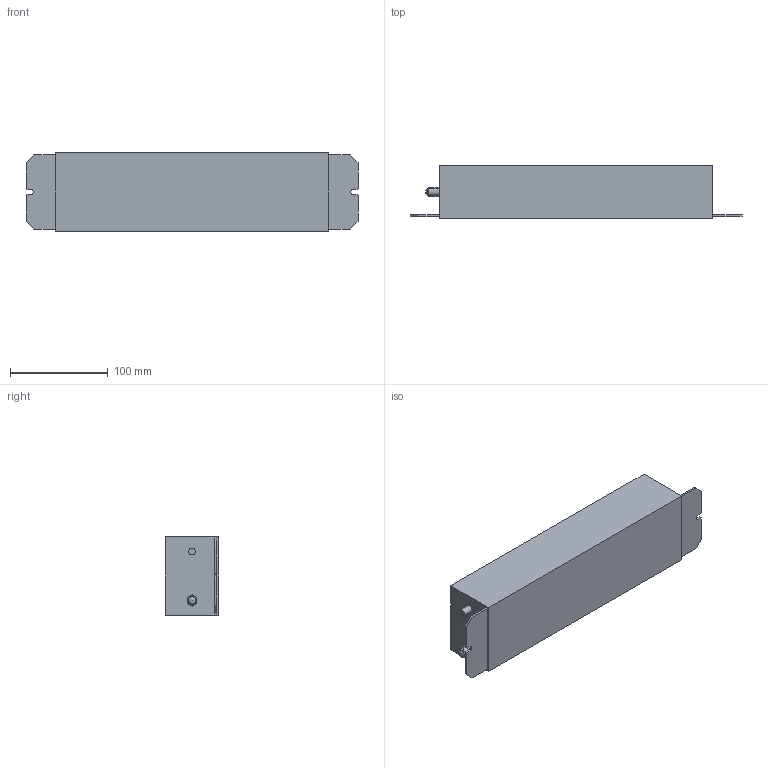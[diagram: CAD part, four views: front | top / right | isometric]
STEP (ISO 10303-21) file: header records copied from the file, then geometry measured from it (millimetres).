
FILE_DESCRIPTION(/* description */ (''),/* implementation_level */ '2;1');
FILE_NAME(/* name */ 'E:\Работа\Веда МК (Данфосс)\!Текущие задачи\2024.08.30 3D модели дросселей\Тормозные резисторы\STP\E54-3.stp',/* time_stamp */ '2024-09-04T07:28:25+04:00',/* author */ ('Александр (огранич)'),/* organization */ (''),/* preprocessor_version */ 'ST-DEVELOPER v18.1',/* originating_system */ 'Autodesk Inventor 2021',/* authorisation */ '');
FILE_SCHEMA (('AUTOMOTIVE_DESIGN { 1 0 10303 214 3 1 1 }'));
Length unit declared in the file: millimetre
Products named in the file (1): E54-1
Bounding box: 340 x 55 x 80 mm (x, y, z)
Volume: 1242187.8 mm3; surface area: 94021.2 mm2
Topology: 1 solids, 1 shells, 51 faces, 132 edges, 86 vertices
Faces by surface type: plane 44, cylinder 4, cone 2, bspline 1
Full cylindrical faces by diameter (mm): 6.928 x1, 10 x1
Entity records: 1608 total; most frequent: CARTESIAN_POINT 331, ORIENTED_EDGE 262, DIRECTION 245, EDGE_CURVE 131, LINE 101, VECTOR 101, VERTEX_POINT 86, AXIS2_PLACEMENT_3D 72
